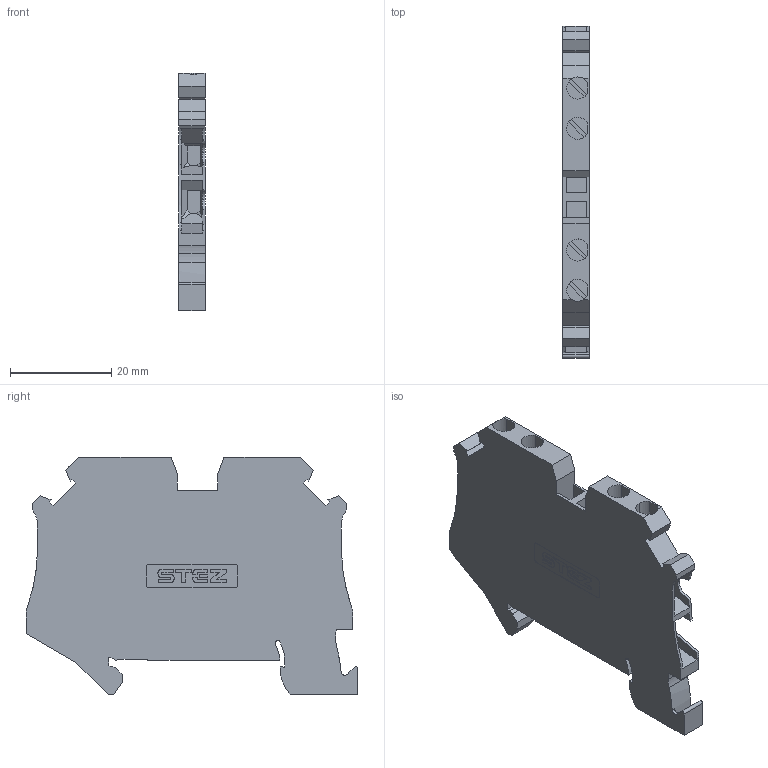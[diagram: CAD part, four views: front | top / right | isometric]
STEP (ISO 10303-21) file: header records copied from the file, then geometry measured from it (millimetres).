
FILE_DESCRIPTION(('TFLEX Exchange Step'),'2;1');
FILE_NAME('11000081_КНВ_2,5-4-С.stp', '2024-04-27T14:05:25+03:00',('apanin'),('Unknown organisation'),'TFLEX Exchange 2023.2','T-FLEX CAD','Unknown authorisation');
FILE_SCHEMA( ('AUTOMOTIVE_DESIGN { 1 0 10303 214 1 1 1 1 }') );
Length unit declared in the file: millimetre
Products named in the file (1): Тело_1 - UT_25_quattro_select.1:1
Bounding box: 5.15 x 65.4 x 46.85 mm (x, y, z)
Volume: 10091.4 mm3; surface area: 7721.9 mm2
Topology: 1 solids, 1 shells, 437 faces, 1263 edges, 837 vertices
Faces by surface type: plane 234, cylinder 203
Entity records: 14545 total; most frequent: DIRECTION 2570, CARTESIAN_POINT 2542, ORIENTED_EDGE 2526, EDGE_CURVE 1263, AXIS2_PLACEMENT_3D 871, VERTEX_POINT 837, VECTOR 828, LINE 828
